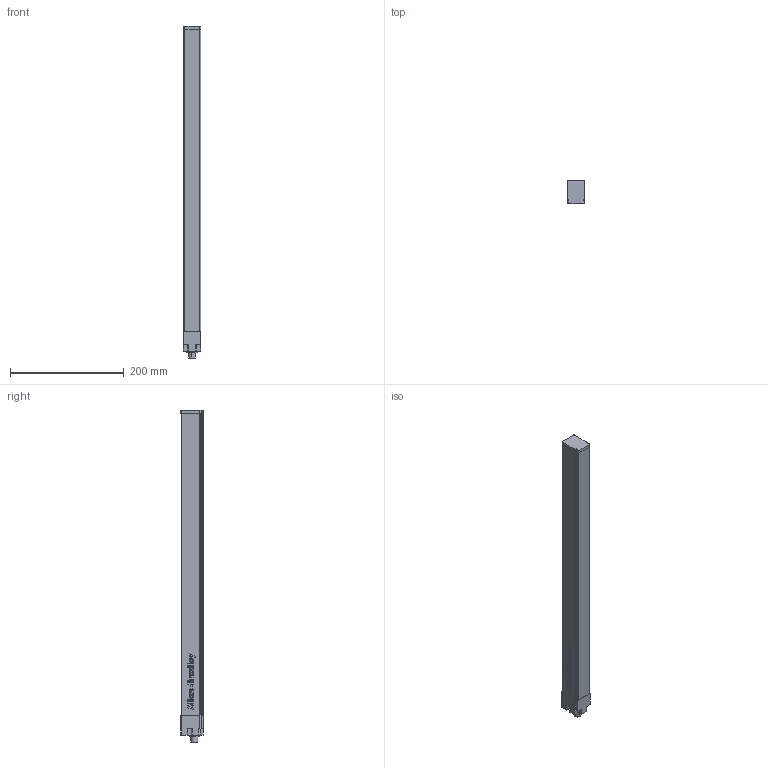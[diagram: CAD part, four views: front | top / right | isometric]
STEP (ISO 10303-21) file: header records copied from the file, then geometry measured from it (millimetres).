
FILE_DESCRIPTION (( 'STEP AP214' ), '1' );
FILE_NAME ('Rockwell Automation-$PARTNUMBER.STEP', '2015-07-08T15:22:13', ( 'Windows User' ), ( '' ), 'SwSTEP 2.0', 'SolidWorks 2015', '' );
FILE_SCHEMA (( 'AUTOMOTIVE_DESIGN' ));
Length unit declared in the file: millimetre
Products named in the file (6): Rockwell Automation-$PARTNUMBER; Rockwell Automation-$PARTNUMBER_Rockwell Automation-445L-P4L0360YD_Guardshield Safe 4 lumberg_Standard; Rockwell Automation-$PARTNUMBER_Rockwell Automation-445L-P4L0360YD_Guardshield Safe 4 ILAS_Standard; Rockwell Automation-$PARTNUMBER_Rockwell Automation-445L-P4L0360YD_Guardshield Safe 4 end cap_Standard; Rockwell Automation-$PARTNUMBER_Rockwell Automation-445L-P4L0360YD_Guardshield Safe 4 connection cap_Standard; Rockwell Automation-$PARTNUMBER_Rockwell Automation-445L-P4L0360YD_Guardshield Safe 4 Profile 30x40_360mm
Assembly tree (5 placements, depth 2):
  Rockwell Automation-$PARTNUMBER
    Rockwell Automation-$PARTNUMBER_Rockwell Automation-445L-P4L0360YD_Guardshield Safe 4 Profile 30x40_360mm
    Rockwell Automation-$PARTNUMBER_Rockwell Automation-445L-P4L0360YD_Guardshield Safe 4 connection cap_Standard
    Rockwell Automation-$PARTNUMBER_Rockwell Automation-445L-P4L0360YD_Guardshield Safe 4 end cap_Standard
    Rockwell Automation-$PARTNUMBER_Rockwell Automation-445L-P4L0360YD_Guardshield Safe 4 ILAS_Standard
    Rockwell Automation-$PARTNUMBER_Rockwell Automation-445L-P4L0360YD_Guardshield Safe 4 lumberg_Standard
Bounding box: 30.6 x 40 x 583.5 mm (x, y, z)
Volume: 244423.7 mm3; surface area: 150930.8 mm2
Topology: 5 solids, 5 shells, 626 faces, 1647 edges, 1098 vertices
Faces by surface type: plane 400, bspline 174, cylinder 52
Entity records: 28711 total; most frequent: CARTESIAN_POINT 13473, ORIENTED_EDGE 3294, DIRECTION 2323, EDGE_CURVE 1647, LINE 1195, VECTOR 1195, VERTEX_POINT 1098, EDGE_LOOP 695
